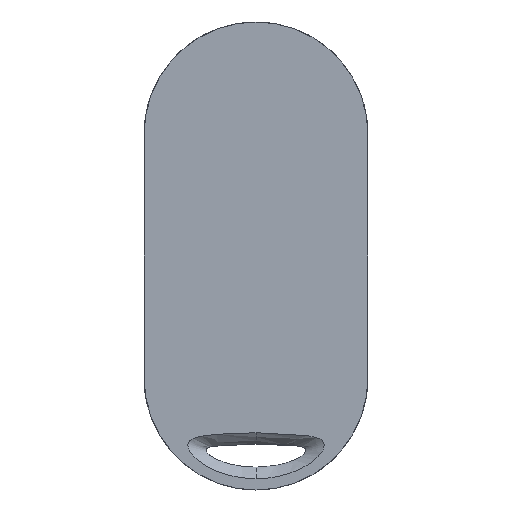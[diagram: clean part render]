
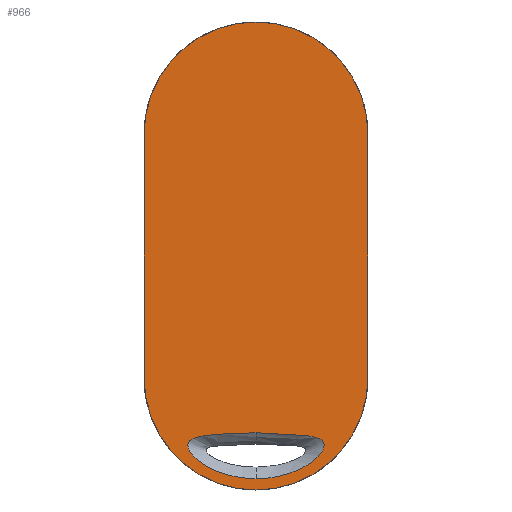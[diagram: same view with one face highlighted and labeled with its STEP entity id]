
A CAD part, top view. The second image highlights one B-rep face of the part: STEP entity #966.
In plain terms, the highlighted planar face has unit normal (0, 0, 1).
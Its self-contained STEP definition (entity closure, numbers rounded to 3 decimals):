
#169=CARTESIAN_POINT('',(0.,-8.412,-5.9));
#170=CARTESIAN_POINT('',(2.966,-8.412,-5.9));
#171=CARTESIAN_POINT('',(9.089,-7.298,-5.9));
#172=CARTESIAN_POINT('',(12.989,-4.101,-5.9));
#173=CARTESIAN_POINT('',(9.203,-3.231,-5.9));
#174=CARTESIAN_POINT('',(3.001,-3.017,-5.9));
#175=CARTESIAN_POINT('',(0.,-3.017,-5.9));
#177=CARTESIAN_POINT('',(0.,-3.017,-5.9));
#178=CARTESIAN_POINT('',(-3.001,-3.017,
-5.9));
#179=CARTESIAN_POINT('',(-9.203,-3.231,
-5.9));
#180=CARTESIAN_POINT('',(-12.989,-4.101,
-5.9));
#181=CARTESIAN_POINT('',(-9.089,-7.298,
-5.9));
#182=CARTESIAN_POINT('',(-2.966,-8.412,-5.9));
#183=CARTESIAN_POINT('',(0.,-8.412,-5.9));
#185=DIRECTION('',(0.,1.,0.));
#186=VECTOR('',#185,56.7);
#187=CARTESIAN_POINT('',(-26.,12.3,-5.9));
#188=LINE('',#187,#186);
#189=CARTESIAN_POINT('',(0.,69.,-5.9));
#190=DIRECTION('',(0.,0.,1.));
#191=DIRECTION('',(1.,0.,0.));
#192=AXIS2_PLACEMENT_3D('',#189,#190,#191);
#194=DIRECTION('',(0.,-1.,0.));
#195=VECTOR('',#194,56.7);
#196=CARTESIAN_POINT('',(26.,69.,-5.9));
#197=LINE('',#196,#195);
#198=CARTESIAN_POINT('',(0.,12.3,
-5.9));
#199=DIRECTION('',(0.,0.,1.));
#200=DIRECTION('',(-1.,0.,0.));
#201=AXIS2_PLACEMENT_3D('',#198,#199,#200);
#616=VERTEX_POINT('',#169);
#617=VERTEX_POINT('',#175);
#633=CARTESIAN_POINT('',(-26.,12.3,-5.9));
#634=CARTESIAN_POINT('',(-26.,69.,-5.9));
#635=VERTEX_POINT('',#633);
#636=VERTEX_POINT('',#634);
#637=CARTESIAN_POINT('',(26.,69.,-5.9));
#638=VERTEX_POINT('',#637);
#639=CARTESIAN_POINT('',(26.,12.3,-5.9));
#640=VERTEX_POINT('',#639);
#949=CARTESIAN_POINT('',(36.12,-25.,-5.9));
#950=DIRECTION('',(0.,0.,-1.));
#951=DIRECTION('',(0.,1.,0.));
#952=AXIS2_PLACEMENT_3D('',#949,#950,#951);
#953=PLANE('',#952);
#954=ORIENTED_EDGE('',*,*,#928,.T.);
#955=ORIENTED_EDGE('',*,*,#770,.F.);
#956=ORIENTED_EDGE('',*,*,#786,.T.);
#957=ORIENTED_EDGE('',*,*,#914,.F.);
#958=EDGE_LOOP('',(#954,#955,#956,#957));
#959=FACE_OUTER_BOUND('',#958,.F.);
#961=ORIENTED_EDGE('',*,*,#960,.T.);
#963=ORIENTED_EDGE('',*,*,#962,.T.);
#964=EDGE_LOOP('',(#961,#963));
#965=FACE_BOUND('',#964,.F.);
#966=ADVANCED_FACE('',(#959,#965),#953,.F.);
#176=B_SPLINE_CURVE_WITH_KNOTS('',3,(#169,#170,#171,#172,#173,#174,#175),
.UNSPECIFIED.,.F.,.F.,(4,1,1,1,4),(0.,0.24,0.552,0.793,1.),
.UNSPECIFIED.);
#184=B_SPLINE_CURVE_WITH_KNOTS('',3,(#177,#178,#179,#180,#181,#182,#183),
.UNSPECIFIED.,.F.,.F.,(4,1,1,1,4),(0.,0.207,0.448,0.76,1.),
.UNSPECIFIED.);
#193=CIRCLE('',#192,26.);
#202=CIRCLE('',#201,26.);
#770=EDGE_CURVE('',#638,#636,#193,.T.);
#786=EDGE_CURVE('',#638,#640,#197,.T.);
#914=EDGE_CURVE('',#635,#640,#202,.T.);
#928=EDGE_CURVE('',#635,#636,#188,.T.);
#960=EDGE_CURVE('',#616,#617,#176,.T.);
#962=EDGE_CURVE('',#617,#616,#184,.T.);
